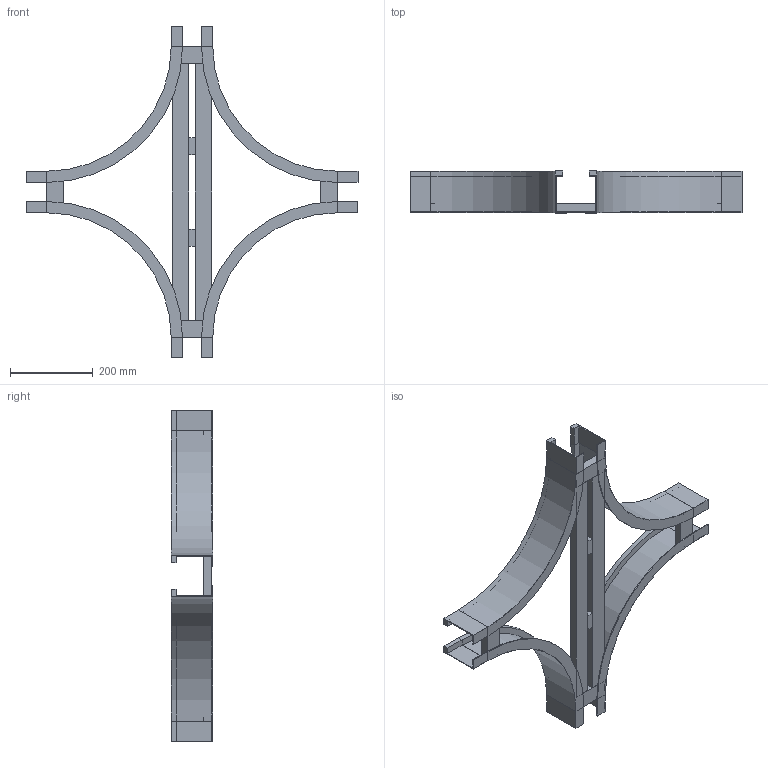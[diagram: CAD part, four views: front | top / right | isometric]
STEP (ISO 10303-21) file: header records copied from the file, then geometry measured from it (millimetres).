
FILE_DESCRIPTION (( 'STEP AP214' ), '1' );
FILE_NAME ('B2_17B3D100.step', '2025-02-21T15:55:26', ( '' ), ( '' ), 'SwSTEP 2.0', 'SolidWorks 2023', '' );
FILE_SCHEMA (( 'AUTOMOTIVE_DESIGN' ));
Length unit declared in the file: millimetre
Products named in the file (5): TRAVERSINO_INTERMEDIO_R300+100; TRAVERSINO_100; B2_LONGH.INTERNO 90°_H100_R300; B2_TRAVERSINO_LONG._R300+100; B2_17B3D100
Assembly tree (12 placements, depth 2):
  B2_17B3D100
    B2_LONGH.INTERNO 90°_H100_R300  x4
    TRAVERSINO_100  x4
    B2_TRAVERSINO_LONG._R300+100  x2
    TRAVERSINO_INTERMEDIO_R300+100  x2
Bounding box: 800 x 100 x 800 mm (x, y, z)
Volume: 2365946 mm3; surface area: 879253.5 mm2
Topology: 12 solids, 12 shells, 152 faces, 320 edges, 192 vertices
Faces by surface type: plane 136, cylinder 16
Entity records: 1354 total; most frequent: DIRECTION 218, CARTESIAN_POINT 207, ORIENTED_EDGE 184, EDGE_CURVE 92, VECTOR 84, LINE 84, AXIS2_PLACEMENT_3D 67, VERTEX_POINT 56
